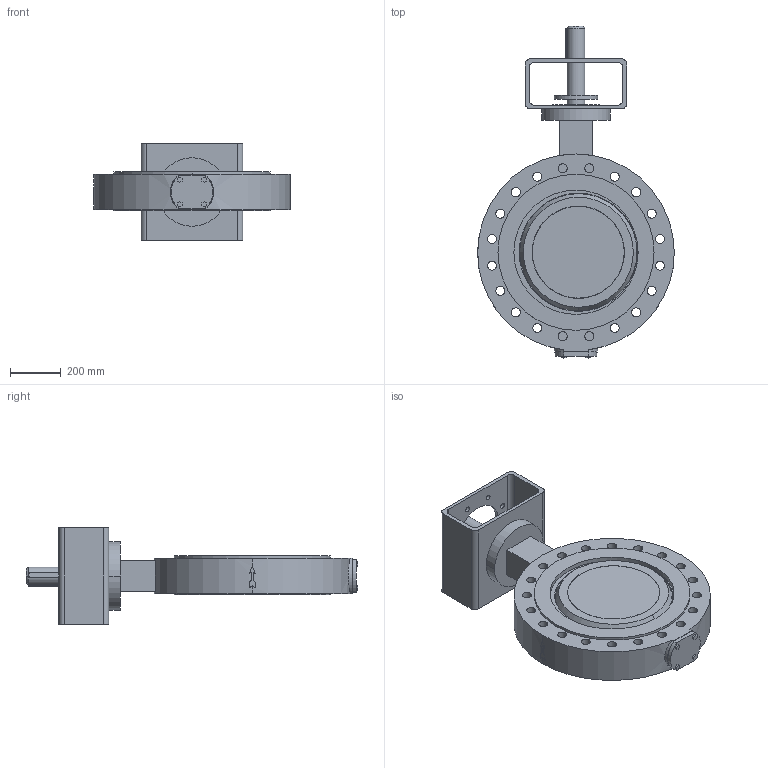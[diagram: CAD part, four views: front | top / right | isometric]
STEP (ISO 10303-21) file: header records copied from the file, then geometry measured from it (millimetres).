
FILE_DESCRIPTION( ( '' ), '1' );
FILE_NAME( 'F:/DE-SHS/TB/OR/04-Sonstiges/daten/files_3d/018_ZETRIX-PN10_freiesWellende/c000006388.stp', '2016-09-01T11:06:12', ( '' ), ( '' ), ' ', ' ', ' ' );
FILE_SCHEMA( ( 'CONFIG_CONTROL_DESIGN' ) );
Length unit declared in the file: millimetre
Products named in the file (1): 1
Bounding box: 775 x 1308.5 x 381 mm (x, y, z)
Volume: 65346693.1 mm3; surface area: 2980873.7 mm2
Topology: 1 solids, 1 shells, 247 faces, 646 edges, 431 vertices
Faces by surface type: cylinder 139, plane 100, cone 4, sphere 4
Entity records: 8839 total; most frequent: CARTESIAN_POINT 2359, DIRECTION 1397, ORIENTED_EDGE 1292, EDGE_CURVE 646, AXIS2_PLACEMENT_3D 541, VERTEX_POINT 431, EDGE_LOOP 335, LINE 315
